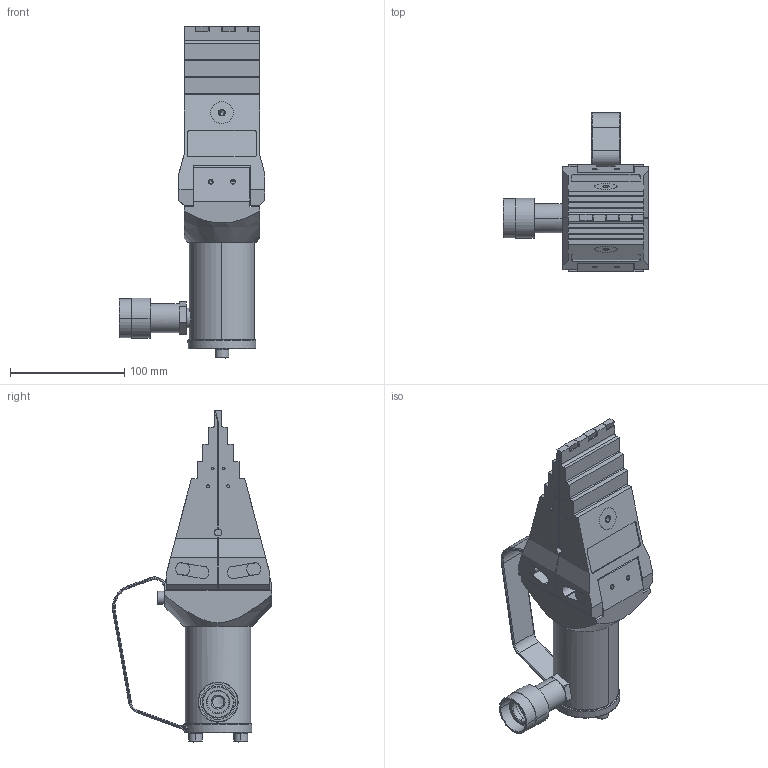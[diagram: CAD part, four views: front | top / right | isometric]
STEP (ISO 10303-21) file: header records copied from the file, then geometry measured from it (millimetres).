
FILE_DESCRIPTION((''),'2;1');
FILE_NAME('FSH14900_SW0001','2015-12-29T',('mike.ward'),(''),'CREO PARAMETRIC BY PTC INC, 2015290','CREO PARAMETRIC BY PTC INC, 2015290','');
FILE_SCHEMA(('CONFIG_CONTROL_DESIGN'));
Length unit declared in the file: inch
Products named in the file (1): FSH14900_SW0001
Bounding box: 127.23 x 139.12 x 290.17 mm (x, y, z)
Volume: 839780.4 mm3; surface area: 209248.1 mm2
Topology: 2 solids, 2 shells, 709 faces, 1813 edges, 1139 vertices
Faces by surface type: plane 309, cylinder 248, cone 99, torus 37, bspline 16
Entity records: 23303 total; most frequent: CARTESIAN_POINT 5715, DIRECTION 3798, ORIENTED_EDGE 3602, EDGE_CURVE 1801, AXIS2_PLACEMENT_3D 1403, VERTEX_POINT 1139, VECTOR 992, LINE 992
